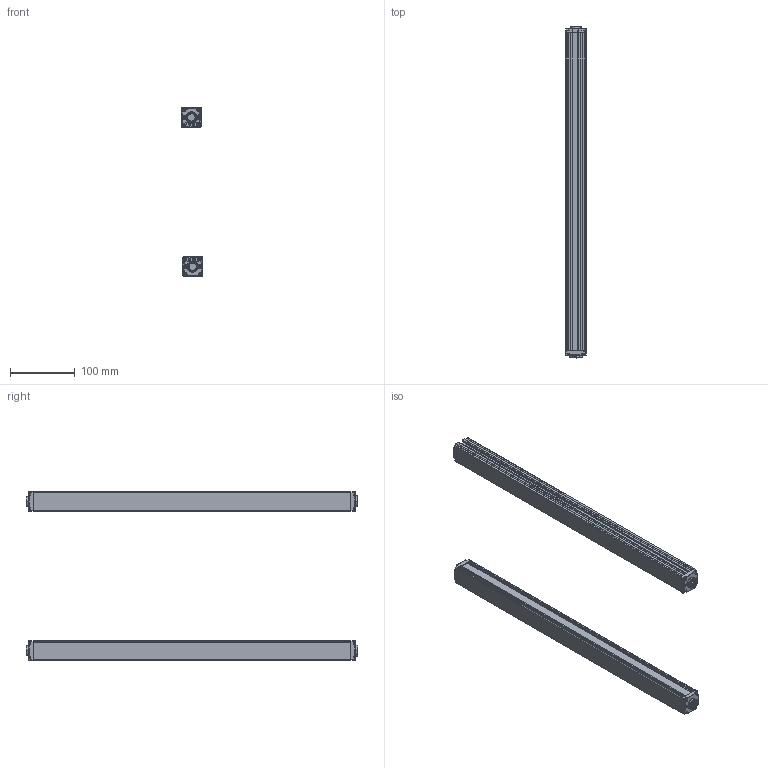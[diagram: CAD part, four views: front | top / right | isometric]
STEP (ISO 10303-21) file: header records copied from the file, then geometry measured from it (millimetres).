
FILE_DESCRIPTION (( 'STEP AP203' ), '1' );
FILE_NAME ('ZDA2420-490.STEP', '2022-08-30T07:31:38', ( 'Windows 蚚誧' ), ( 'Organization' ), 'SwSTEP 2.0', 'SolidWorks 2020', '' );
FILE_SCHEMA (( 'CONFIG_CONTROL_DESIGN' ));
Length unit declared in the file: millimetre
Products named in the file (5): 錨璃10; ZDA2420-490; 錨璃1; 錨璃8; 錨璃8 - 萵掛 (2)
Assembly tree (8 placements, depth 2):
  ZDA2420-490
    錨璃1  x2
    錨璃8  x2
    錨璃8 - 萵掛 (2)  x2
    錨璃10  x2
Bounding box: 32.36 x 511.4 x 260.35 mm (x, y, z)
Volume: 316957.3 mm3; surface area: 336954.7 mm2
Topology: 8 solids, 8 shells, 1032 faces, 2690 edges, 1668 vertices
Faces by surface type: plane 464, cylinder 310, cone 120, bspline 58, torus 48, sphere 32
Entity records: 17901 total; most frequent: CARTESIAN_POINT 4731, ORIENTED_EDGE 2666, DIRECTION 2616, EDGE_CURVE 1333, AXIS2_PLACEMENT_3D 894, VERTEX_POINT 834, LINE 828, VECTOR 828
